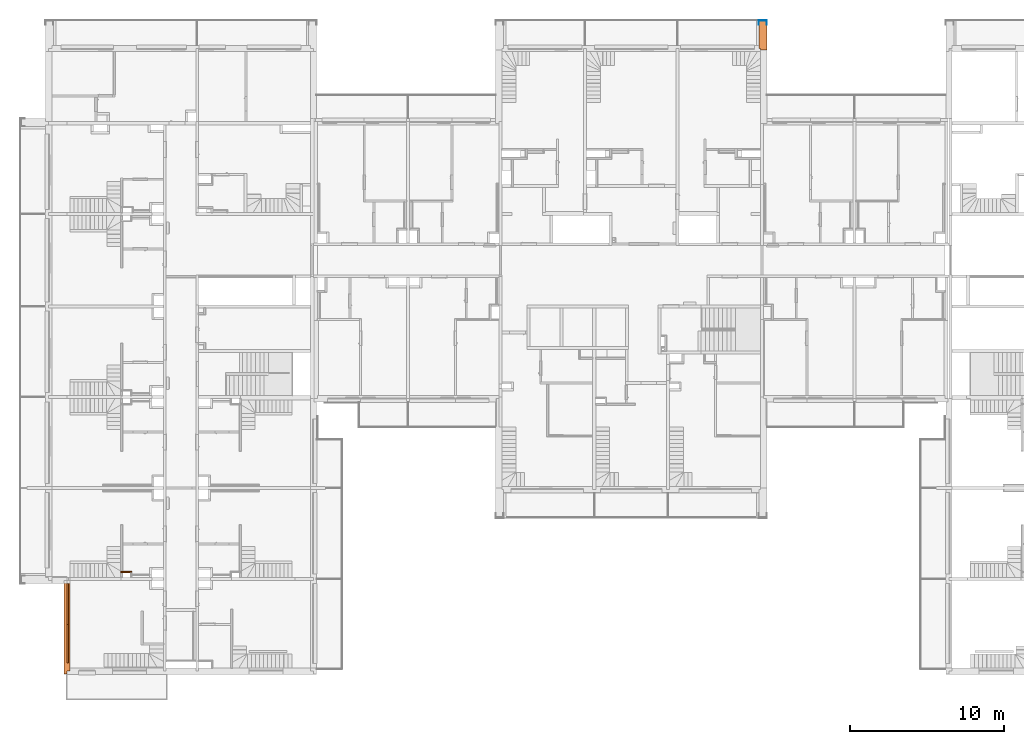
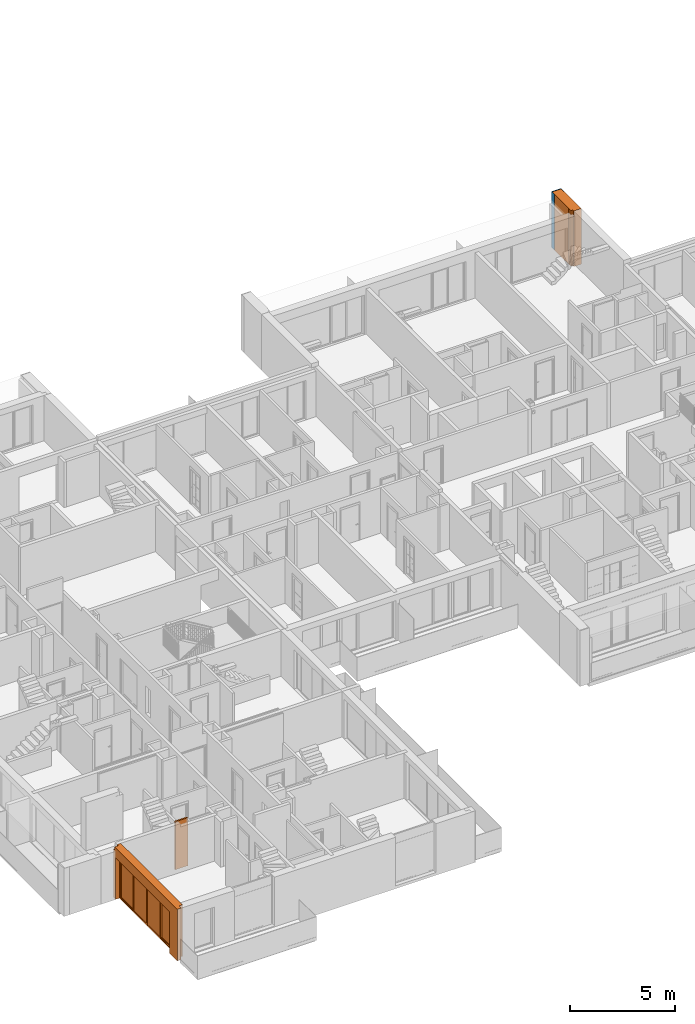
# One storey, part 44 of 61: 5 proxies, 1 wall, 3 openings.
"""IFC2X3 building model written with IfcOpenShell, lengths in millimetres."""

import ifcopenshell
import ifcopenshell.guid

model = None  # the IFC model being written
_history = None  # IfcOwnerHistory: only IFC2X3 demands one
_inside = {}  # id of a spatial element -> (the spatial element, [elements in it])
_under = {}  # id of a project, library or spatial element -> (it, [spatial elements below it])
_declared = {}  # id of a project -> (the project, [libraries it declares])
_typed = {}  # id of a type object -> (the type object, [elements of that type])
_made_of = {}  # id of a material, layer set ... -> (it, [elements and type objects made of it])


def new_model(schema):
    """Start an empty IFC model of exactly this schema.

    Asked for "IFC4X3", IfcOpenShell would pick the latest addendum, in which some entities
    have other attributes; the version numbers below select the first issue.
    IFC2X3 requires an IfcOwnerHistory on every rooted entity: one is made here for all.
    """
    global model, _history
    if schema == "IFC4X3":
        model = ifcopenshell.file(schema_version=(4, 3, 0, 0))
    else:
        model = ifcopenshell.file(schema=schema)
    _inside.clear()
    _under.clear()
    _declared.clear()
    _typed.clear()
    _made_of.clear()
    _history = None
    if model.schema == "IFC2X3":
        org = make("IfcOrganization", Name="unknown")
        user = make(
            "IfcPersonAndOrganization",
            ThePerson=make("IfcPerson", FamilyName="unknown"),
            TheOrganization=org,
        )
        app = make(
            "IfcApplication",
            ApplicationDeveloper=org,
            Version="unknown",
            ApplicationFullName="unknown",
            ApplicationIdentifier="unknown",
        )
        _history = make(
            "IfcOwnerHistory",
            OwningUser=user,
            OwningApplication=app,
            ChangeAction="ADDED",
            CreationDate=0,
        )
    return model


def make(cls, **values):
    """One entity of the class cls with the attributes given. An attribute that is None is left unset."""
    return model.create_entity(
        cls, **{name: value for name, value in values.items() if value is not None}
    )


def entity(cls, *values):
    """Any entity or typed value of the class cls, its attributes in the order of the schema. None: left unset."""
    e = model.create_entity(cls)
    for i, value in enumerate(values):
        if value is not None:
            e[i] = value
    return e


def rooted(cls, **values):
    """An entity with a GlobalId (a new one), such as an element, a storey or a relation."""
    return make(cls, GlobalId=ifcopenshell.guid.new(), OwnerHistory=_history, **values)


def si_unit(unit_type, name, prefix=None):
    """IfcSIUnit, for example si_unit("LENGTHUNIT", "METRE", prefix="MILLI")."""
    return make("IfcSIUnit", UnitType=unit_type, Prefix=prefix, Name=name)


def converted_unit(unit_type, name, factor, base, dimensions=None, offset=None):
    """IfcConversionBasedUnit, such as the inch: factor (a typed value) times the base unit."""
    return make(
        "IfcConversionBasedUnit"
        if offset is None
        else "IfcConversionBasedUnitWithOffset",
        ConversionOffset=offset,
        Dimensions=None
        if dimensions is None
        else entity("IfcDimensionalExponents", *dimensions),
        UnitType=unit_type,
        Name=name,
        ConversionFactor=make(
            "IfcMeasureWithUnit", ValueComponent=factor, UnitComponent=base
        ),
    )


def derived_unit(unit_type, elements):
    """IfcDerivedUnit: a product of units, each with its exponent."""
    return make(
        "IfcDerivedUnit",
        Elements=[
            make("IfcDerivedUnitElement", Unit=unit, Exponent=power)
            for unit, power in elements
        ],
        UnitType=unit_type,
    )


def money_unit(currency):
    """IfcMonetaryUnit."""
    return make("IfcMonetaryUnit", Currency=currency)


def assignment(units):
    """IfcUnitAssignment: the units of a project."""
    return None if units is None else make("IfcUnitAssignment", Units=units)


def point(xyz):
    """IfcCartesianPoint."""
    return None if xyz is None else make("IfcCartesianPoint", Coordinates=xyz)


def direction(xyz):
    """IfcDirection."""
    return None if xyz is None else make("IfcDirection", DirectionRatios=xyz)


def frame(location, z_axis=None, x_axis=None):
    """IfcAxis2Placement3D, a coordinate frame: its origin and axes. An axis left out is left unset."""
    return make(
        "IfcAxis2Placement3D",
        Location=point(location),
        Axis=direction(z_axis),
        RefDirection=direction(x_axis),
    )


def frame_2d(location, x_axis=None):
    """IfcAxis2Placement2D, a coordinate frame in the plane: its origin and x axis."""
    return make(
        "IfcAxis2Placement2D", Location=point(location), RefDirection=direction(x_axis)
    )


def origin_with_axes():
    """The frame at (0, 0, 0) with the z axis (0, 0, 1) and the x axis (1, 0, 0) written out."""
    return frame((0.0, 0.0, 0.0), z_axis=(0.0, 0.0, 1.0), x_axis=(1.0, 0.0, 0.0))


def origin_2d_with_axis():
    """The frame at (0, 0) in the plane with the x axis (1, 0) written out."""
    return frame_2d((0.0, 0.0), x_axis=(1.0, 0.0))


def place(relative_to, where):
    """IfcLocalPlacement: puts the frame where relative to a parent placement (None: the world)."""
    return make(
        "IfcLocalPlacement", PlacementRelTo=relative_to, RelativePlacement=where
    )


def context(
    kind, dimensions, precision=None, world=None, true_north=None, identifier=None
):
    """IfcGeometricRepresentationContext, for example the 3D "Model" context."""
    return make(
        "IfcGeometricRepresentationContext",
        ContextIdentifier=identifier,
        ContextType=kind,
        CoordinateSpaceDimension=dimensions,
        Precision=precision,
        WorldCoordinateSystem=world,
        TrueNorth=true_north,
    )


def subcontext(parent, identifier, kind, view, scale=None):
    """IfcGeometricRepresentationSubContext, for example "Body" below "Model"."""
    return make(
        "IfcGeometricRepresentationSubContext",
        ContextIdentifier=identifier,
        ContextType=kind,
        ParentContext=parent,
        TargetScale=scale,
        TargetView=view,
    )


def project(units=None, contexts=None):
    """IfcProject with its units and contexts."""
    return rooted(
        "IfcProject",
        Name="project",
        RepresentationContexts=contexts,
        UnitsInContext=assignment(units),
    )


def spatial(cls, under=None, at=None, **own):
    """A site, building, storey or space (cls), placed at a placement, below another one or the project."""
    s = rooted(cls, ObjectPlacement=at, **own)
    if under is not None:
        _under.setdefault(under.id(), (under, []))[1].append(s)
    return s


def profile(cls, at=None, kind="AREA", **sizes):
    """A parametric profile (cls). Its sizes go by their IFC names, for example OverallWidth=200.0."""
    return make(cls, ProfileType=kind, Position=at, **sizes)


def rectangle(**sizes):
    """IfcRectangleProfileDef."""
    return profile("IfcRectangleProfileDef", **sizes)


def extrude(swept, where, along, depth):
    """IfcExtrudedAreaSolid: the profile swept, set in the frame where, extruded along a direction by depth."""
    return make(
        "IfcExtrudedAreaSolid",
        SweptArea=swept,
        Position=where,
        ExtrudedDirection=direction(along),
        Depth=depth,
    )


def faces_of(points, faces, orient=None, outer=None):
    """IfcFace entities. A face is a list of loops; a loop is a list of indices into points, from 0.

    orient and outer hold one flag for each loop. By default every Orientation is true, the
    first loop of a face is its IfcFaceOuterBound and the others are IfcFaceBound.
    """
    made = []
    for i, loops in enumerate(faces):
        bounds = []
        for j, loop in enumerate(loops):
            is_outer = j == 0 if outer is None else outer[i][j]
            bounds.append(
                make(
                    "IfcFaceOuterBound" if is_outer else "IfcFaceBound",
                    Bound=make("IfcPolyLoop", Polygon=[points[k] for k in loop]),
                    Orientation=True if orient is None else orient[i][j],
                )
            )
        made.append(make("IfcFace", Bounds=bounds))
    return made


def open_shell(faces, orient=None, outer=None):
    """The faces of one IfcOpenShell. surface_model builds it on its shared points."""
    return ("IfcOpenShell", faces, orient, outer)


def faceted_brep(points, faces, orient=None, outer=None, voids=None):
    """IfcFacetedBrep: a solid bounded by flat faces; with voids (closed shells), ...WithVoids."""
    shared = [point(p) for p in points]
    hull = make("IfcClosedShell", CfsFaces=faces_of(shared, faces, orient, outer))
    if voids is None:
        return make("IfcFacetedBrep", Outer=hull)
    return make(
        "IfcFacetedBrepWithVoids",
        Outer=hull,
        Voids=[
            make(cls, CfsFaces=faces_of(shared, fs, o, b)) for cls, fs, o, b in voids
        ],
    )


def surface_model(cls, points, shells):
    """IfcFaceBasedSurfaceModel or IfcShellBasedSurfaceModel (cls): surfaces that need not close."""
    shared = [point(p) for p in points]
    made = [make(c, CfsFaces=faces_of(shared, fs, o, b)) for c, fs, o, b in shells]
    if cls == "IfcFaceBasedSurfaceModel":
        return make(cls, FbsmFaces=made)
    return make(cls, SbsmBoundary=made)


def shape(context_of_items, identifier, shape_type, items):
    """IfcShapeRepresentation: the items that make up one representation, for example the "Body"."""
    return make(
        "IfcShapeRepresentation",
        ContextOfItems=context_of_items,
        RepresentationIdentifier=identifier,
        RepresentationType=shape_type,
        Items=items,
    )


def source(mapping_origin, context_of_items, identifier, shape_type, items):
    """IfcRepresentationMap: a shape defined once, which mapped items show again and again."""
    return make(
        "IfcRepresentationMap",
        MappingOrigin=mapping_origin,
        MappedRepresentation=shape(context_of_items, identifier, shape_type, items),
    )


def transform(
    local_origin,
    x_axis=None,
    y_axis=None,
    z_axis=None,
    scale=None,
    scale2=None,
    scale3=None,
    uniform=True,
):
    """IfcCartesianTransformationOperator3D, or its non-uniform kind. x_axis, y_axis, z_axis: its Axis1, 2, 3."""
    if uniform:
        return make(
            "IfcCartesianTransformationOperator3D",
            Axis1=direction(x_axis),
            Axis2=direction(y_axis),
            LocalOrigin=point(local_origin),
            Scale=scale,
            Axis3=direction(z_axis),
        )
    return make(
        "IfcCartesianTransformationOperator3DnonUniform",
        Axis1=direction(x_axis),
        Axis2=direction(y_axis),
        LocalOrigin=point(local_origin),
        Scale=scale,
        Axis3=direction(z_axis),
        Scale2=scale2,
        Scale3=scale3,
    )


def mapped(mapping_source, mapping_target):
    """IfcMappedItem: shows the shape of a source again, moved by a transform."""
    return make(
        "IfcMappedItem", MappingSource=mapping_source, MappingTarget=mapping_target
    )


def material(Name=None, Category=None):
    """IfcMaterial."""
    return make("IfcMaterial", Name=Name, Category=Category)


def material_list(materials):
    """IfcMaterialList."""
    return make("IfcMaterialList", Materials=materials)


def made_of(thing, what):
    """Note that an element or type object is made of a material, layer set ...; save() writes the relation."""
    if what is not None:
        _made_of.setdefault(what.id(), (what, []))[1].append(thing)
    return thing


def type_object(cls, material=None, **own):
    """A type object (cls), such as IfcWallType, which elements share."""
    return made_of(rooted(cls, **own), material)


def element(
    cls,
    number,
    at=None,
    inside=None,
    cuts=None,
    type_object=None,
    material=None,
    context=None,
    identifier="Body",
    shape_type=None,
    held_by="IfcProductDefinitionShape",
    body=None,
    shapes=None,
    **own,
):
    """One element of the class cls, such as IfcWall. Its Tag is "e" and its number.

    at: its placement. inside: the storey or other place that contains it. cuts: it is an
    opening in that element (IfcRelVoidsElement). A single representation is given by context,
    identifier, shape_type and body (its items); several are given by shapes. held_by: the class
    of the entity that holds the representations. save() writes the other relations.
    """
    e = rooted(cls, Tag="e%d" % number, ObjectPlacement=at, **own)
    if body is not None:
        shapes = [shape(context, identifier, shape_type, body)]
    if shapes is not None:
        e.Representation = make(held_by, Representations=shapes)
    if inside is not None:
        _inside.setdefault(inside.id(), (inside, []))[1].append(e)
    if cuts is not None:
        rooted(
            "IfcRelVoidsElement", RelatingBuildingElement=cuts, RelatedOpeningElement=e
        )
    if type_object is not None:
        _typed.setdefault(type_object.id(), (type_object, []))[1].append(e)
    return made_of(e, material)


def fill(opening, filler):
    """IfcRelFillsElement: the door or window that sits in an opening."""
    return rooted(
        "IfcRelFillsElement",
        RelatingOpeningElement=opening,
        RelatedBuildingElement=filler,
    )


def aggregate(whole, parts):
    """IfcRelAggregates: a whole, such as a stair, and the parts it consists of."""
    return rooted("IfcRelAggregates", RelatingObject=whole, RelatedObjects=parts)


def save(model, path):
    """Write the relations noted so far, then the file.

    IfcRelAggregates (storeys below a building ...), IfcRelContainedInSpatialStructure (elements
    in a storey), IfcRelDefinesByType, IfcRelAssociatesMaterial and IfcRelDeclares: one each for
    every whole, place, type object, material and project.
    """
    for whole, parts in _under.values():
        aggregate(whole, parts)
    for where, things in _inside.values():
        rooted(
            "IfcRelContainedInSpatialStructure",
            RelatedElements=things,
            RelatingStructure=where,
        )
    for kind, things in _typed.values():
        rooted("IfcRelDefinesByType", RelatedObjects=things, RelatingType=kind)
    for what, things in _made_of.values():
        rooted("IfcRelAssociatesMaterial", RelatedObjects=things, RelatingMaterial=what)
    for by, libraries in _declared.values():
        rooted("IfcRelDeclares", RelatingContext=by, RelatedDefinitions=libraries)
    model.write(path)


model = new_model("IFC2X3")

# Units and contexts
model_context = context("Model", 3, precision=0.01, world=origin_with_axes(), true_north=direction((0.34421633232, 0.938890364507)))
body_context = subcontext(model_context, "Body", "Model", "MODEL_VIEW")
ifc_project = project(units=[si_unit("LENGTHUNIT", "METRE", prefix="MILLI"), si_unit("AREAUNIT", "SQUARE_METRE"), si_unit("VOLUMEUNIT", "CUBIC_METRE"), converted_unit("PLANEANGLEUNIT", "DEGREE", entity("IfcPlaneAngleMeasure", 0.0174532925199), si_unit("PLANEANGLEUNIT", "RADIAN"), dimensions=[0, 0, 0, 0, 0, 0, 0]), si_unit("SOLIDANGLEUNIT", "STERADIAN"), money_unit("USD"), converted_unit("TIMEUNIT", "Year", entity("IfcTimeMeasure", 31556926.0), si_unit("TIMEUNIT", "SECOND"), dimensions=[0, 0, 1, 0, 0, 0, 0]), si_unit("MASSUNIT", "GRAM", prefix="KILO"), si_unit("THERMODYNAMICTEMPERATUREUNIT", "DEGREE_CELSIUS"), si_unit("LUMINOUSINTENSITYUNIT", "LUMEN"), si_unit("ENERGYUNIT", "JOULE", prefix="MEGA"), derived_unit("THERMALCONDUCTANCEUNIT", [(si_unit("POWERUNIT", "WATT"), 1), (si_unit("LENGTHUNIT", "METRE"), -1), (si_unit("THERMODYNAMICTEMPERATUREUNIT", "KELVIN"), -1)]), derived_unit("SPECIFICHEATCAPACITYUNIT", [(si_unit("ENERGYUNIT", "JOULE"), 1), (si_unit("MASSUNIT", "GRAM", prefix="KILO"), -1), (si_unit("THERMODYNAMICTEMPERATUREUNIT", "KELVIN"), -1)]), derived_unit("MASSDENSITYUNIT", [(si_unit("MASSUNIT", "GRAM", prefix="KILO"), 1), (si_unit("VOLUMEUNIT", "CUBIC_METRE"), -1)])], contexts=[model_context])

# Site, building, storey
site_placement = place(None, origin_with_axes())
site = spatial("IfcSite", under=ifc_project, at=site_placement, Name="USTRONIE MORSKIE", CompositionType="ELEMENT")
building_placement = place(site_placement, origin_with_axes())
building = spatial("IfcBuilding", under=site, at=building_placement, Name="Budynek", CompositionType="ELEMENT")
storey_placement = place(building_placement, frame((0.0, 0.0, 13000.0), z_axis=(0.0, 0.0, 1.0), x_axis=(1.0, 0.0, 0.0)))
storey = spatial("IfcBuildingStorey", under=building, at=storey_placement, Name="PIĘTRO 4", CompositionType="ELEMENT", Elevation=13000.0)

# Proxies, openings
ifc_material_1 = material(Name="Beton konstrukcyjny B25")
ifc_material_2 = material(Name="Wełna ELEW")
ifc_material_3 = material(Name="Tynk zewnętrzny")
ifc_material_list_1 = material_list([ifc_material_1, ifc_material_2, ifc_material_3])
building_element_proxy_type_1 = type_object("IfcBuildingElementProxyType", Name="20+20 410", PredefinedType="NOTDEFINED")
proxy_1_placement = place(storey_placement, frame((351267.920919, 715101.199036, -160.0), z_axis=(0.0, 0.0, 1.0), x_axis=(0.0, -1.0, 0.0)))
proxy_1 = element("IfcBuildingElementProxy", 1, at=proxy_1_placement, inside=storey, type_object=building_element_proxy_type_1, material=ifc_material_list_1, Name="SZ-01", context=body_context, shape_type="Brep", body=[
    faceted_brep([(100.0, 100.0, 2799.99999799), (100.0, 100.0, 2999.99999811), (6000.0, 100.0, 3000.0), (6000.0, 100.0, 0.0), (100.0, 100.0, 0.0), (100.0, -100.0, 2999.99999805), (100.0, -100.0, 2799.99999799), (6000.0, -100.0, 3000.0), (6000.0, -100.0, 0.0), (100.0, -100.0, 0.0)], [[[0, 1, 2, 3, 4]], [[5, 1, 0, 6]], [[1, 5, 7, 2]], [[3, 2, 7, 8]], [[9, 4, 3, 8]], [[6, 0, 4, 9]], [[5, 6, 9, 8, 7]]]),
    faceted_brep([(100.0, -300.0, 0.0), (100.0, -300.0, 2799.99999799), (100.0, -100.0, 2799.99999799), (100.0, -100.0, 0.0), (200.0, -300.0, 2999.99999799), (200.0, -300.0, 2799.99999799), (6200.0, -300.0, 0.0), (6200.0, -300.0, 3000.0), (200.0, -100.0, 2799.99999799), (200.0, -100.0, 2999.99999799), (6200.0, -100.0, 3000.0), (6200.0, -100.0, 0.0)], [[[0, 1, 2, 3]], [[4, 5, 1, 0, 6, 7]], [[5, 8, 2, 1]], [[2, 8, 9, 10, 11, 3]], [[6, 0, 3, 11]], [[5, 4, 9, 8]], [[6, 11, 10, 7]], [[10, 9, 4, 7]]]),
    faceted_brep([(200.0, -300.0, 2799.99999799), (200.0, -300.0, 2999.99999799), (6210.0, -300.0, 3000.0), (6210.0, -300.0, 0.0), (300.0, -300.0, 0.0), (300.0, -300.0, 2799.99999799), (200.0, -310.0, 2999.99999799), (200.0, -310.0, 2799.99999799), (6210.0, -310.0, 3000.0), (6210.0, -310.0, 0.0), (300.0, -310.0, 0.0), (300.0, -310.0, 2799.99999799)], [[[0, 1, 2, 3, 4, 5]], [[6, 1, 0, 7]], [[1, 6, 8, 2]], [[3, 2, 8, 9]], [[10, 4, 3, 9]], [[5, 4, 10, 11]], [[7, 0, 5, 11]], [[6, 7, 11, 10, 9, 8]]]),
])
opening_1_placement = place(proxy_1_placement, frame((1640.0, 0.0, 0.0), z_axis=(0.0, 0.0, 1.0), x_axis=(1.0, 0.0, 0.0)))
opening_1 = element("IfcOpeningElement", 2, at=opening_1_placement, cuts=proxy_1, Name="Wz.04", context=body_context, shape_type="SweptSolid", body=[
    extrude(rectangle(XDim=2680.0, YDim=2420.0, at=origin_2d_with_axis()), frame((0.0, 0.0, 1210.0), z_axis=(0.0, -1.0, 0.0), x_axis=(-1.0, 0.0, 0.0)), (0.0, 0.0, 1.0), 720.0),
    extrude(rectangle(XDim=2680.0, YDim=2420.0, at=origin_2d_with_axis()), frame((0.0, 0.0, 1210.0), z_axis=(0.0, 1.0, 0.0), x_axis=(-1.0, 0.0, 0.0)), (0.0, 0.0, 1.0), 510.0),
])
opening_2_placement = place(proxy_1_placement, frame((4225.0, 0.0, 0.0), z_axis=(0.0, 0.0, 1.0), x_axis=(1.0, 0.0, 0.0)))
opening_2 = element("IfcOpeningElement", 3, at=opening_2_placement, cuts=proxy_1, Name="Wz.04", context=body_context, shape_type="SweptSolid", body=[
    extrude(rectangle(XDim=2490.0, YDim=2420.0, at=origin_2d_with_axis()), frame((0.0, 0.0, 1210.0), z_axis=(0.0, 1.0, 0.0), x_axis=(1.0, 0.0, 0.0)), (0.0, 0.0, -1.0), 720.0),
    extrude(rectangle(XDim=2490.0, YDim=2420.0, at=origin_2d_with_axis()), frame((0.0, 0.0, 1210.0), z_axis=(0.0, -1.0, 0.0), x_axis=(1.0, 0.0, 0.0)), (0.0, 0.0, -1.0), 510.0),
])
building_element_proxy_type_2 = type_object("IfcBuildingElementProxyType", Name="Okno przesuwne, 2-skrzydłowe 23", PredefinedType="NOTDEFINED")
proxy_2_placement = place(opening_1_placement, frame((-1340.0, 0.0, 0.0), z_axis=(0.0, 0.0, 1.0), x_axis=(1.0, 0.0, 0.0)))
proxy_2 = element("IfcBuildingElementProxy", 4, at=proxy_2_placement, inside=storey, type_object=building_element_proxy_type_2, Name="Wz.04", context=body_context, shape_type="SurfaceModel", body=[
    faceted_brep([(2630.0, -100.0, 50.0), (2630.0, -100.0, 2370.0), (2630.0, 0.0, 2370.0), (2630.0, 0.0, 50.0), (2680.0, -100.0, 50.0), (2680.0, -100.0, 2370.0), (2680.0, 0.0, 2370.0), (2680.0, 0.0, 50.0)], [[[0, 1, 2, 3]], [[0, 4, 5, 1]], [[1, 5, 6, 2]], [[3, 2, 6, 7]], [[4, 0, 3, 7]], [[5, 4, 7, 6]]]),
    faceted_brep([(0.0, -100.0, 50.0), (0.0, -100.0, 2370.0), (0.0, 0.0, 2370.0), (0.0, 0.0, 50.0), (50.0, -100.0, 50.0), (50.0, -100.0, 2370.0), (50.0, 0.0, 2370.0), (50.0, 0.0, 50.0)], [[[0, 1, 2, 3]], [[0, 4, 5, 1]], [[1, 5, 6, 2]], [[3, 2, 6, 7]], [[4, 0, 3, 7]], [[5, 4, 7, 6]]]),
    faceted_brep([(0.0, -100.0, 50.0), (50.0, -100.0, 50.0), (50.0, 0.0, 50.0), (0.0, 0.0, 50.0), (0.0, -100.0, 0.0), (2680.0, -100.0, 0.0), (2680.0, -100.0, 50.0), (2630.0, -100.0, 50.0), (2630.0, 0.0, 50.0), (2680.0, 0.0, 50.0), (2680.0, 0.0, 0.0), (0.0, 0.0, 0.0)], [[[0, 1, 2, 3]], [[0, 4, 5, 6, 7, 1]], [[1, 7, 8, 2]], [[3, 2, 8, 9, 10, 11]], [[4, 0, 3, 11]], [[5, 4, 11, 10]], [[6, 5, 10, 9]], [[7, 6, 9, 8]]]),
    faceted_brep([(0.0, -100.0, 2420.0), (2680.0, -100.0, 2420.0), (2680.0, 0.0, 2420.0), (0.0, 0.0, 2420.0), (0.0, -100.0, 2370.0), (50.0, -100.0, 2370.0), (2630.0, -100.0, 2370.0), (2680.0, -100.0, 2370.0), (2680.0, 0.0, 2370.0), (2630.0, 0.0, 2370.0), (50.0, 0.0, 2370.0), (0.0, 0.0, 2370.0)], [[[0, 1, 2, 3]], [[0, 4, 5, 6, 7, 1]], [[1, 7, 8, 2]], [[3, 2, 8, 9, 10, 11]], [[4, 0, 3, 11]], [[5, 4, 11, 10]], [[6, 5, 10, 9]], [[7, 6, 9, 8]]]),
    faceted_brep([(2580.0, -100.0, 2320.0), (2630.0, -100.0, 2320.0), (2630.0, -50.0, 2320.0), (2580.0, -50.0, 2320.0), (2580.0, -100.0, 100.0), (2630.0, -100.0, 100.0), (2630.0, -50.0, 100.0), (2580.0, -50.0, 100.0)], [[[0, 1, 2, 3]], [[0, 4, 5, 1]], [[1, 5, 6, 2]], [[3, 2, 6, 7]], [[4, 0, 3, 7]], [[5, 4, 7, 6]]]),
    faceted_brep([(1365.0, -100.0, 100.0), (1315.0, -100.0, 100.0), (1315.0, -50.0, 100.0), (1365.0, -50.0, 100.0), (1365.0, -100.0, 2320.0), (1315.0, -100.0, 2320.0), (1315.0, -50.0, 2320.0), (1365.0, -50.0, 2320.0)], [[[0, 1, 2, 3]], [[0, 4, 5, 1]], [[1, 5, 6, 2]], [[3, 2, 6, 7]], [[4, 0, 3, 7]], [[5, 4, 7, 6]]]),
    faceted_brep([(1315.0, -100.0, 50.0), (1315.0, -100.0, 100.0), (1315.0, -50.0, 100.0), (1315.0, -50.0, 50.0), (2630.0, -100.0, 50.0), (2630.0, -100.0, 100.0), (2580.0, -100.0, 100.0), (1365.0, -100.0, 100.0), (1365.0, -50.0, 100.0), (2580.0, -50.0, 100.0), (2630.0, -50.0, 100.0), (2630.0, -50.0, 50.0)], [[[0, 1, 2, 3]], [[0, 4, 5, 6, 7, 1]], [[1, 7, 8, 2]], [[3, 2, 8, 9, 10, 11]], [[4, 0, 3, 11]], [[5, 4, 11, 10]], [[6, 5, 10, 9]], [[7, 6, 9, 8]]]),
    faceted_brep([(2630.0, -100.0, 2370.0), (2630.0, -100.0, 2320.0), (2630.0, -50.0, 2320.0), (2630.0, -50.0, 2370.0), (1315.0, -100.0, 2370.0), (1315.0, -100.0, 2320.0), (1365.0, -100.0, 2320.0), (2580.0, -100.0, 2320.0), (2580.0, -50.0, 2320.0), (1365.0, -50.0, 2320.0), (1315.0, -50.0, 2320.0), (1315.0, -50.0, 2370.0)], [[[0, 1, 2, 3]], [[0, 4, 5, 6, 7, 1]], [[1, 7, 8, 2]], [[3, 2, 8, 9, 10, 11]], [[4, 0, 3, 11]], [[5, 4, 11, 10]], [[6, 5, 10, 9]], [[7, 6, 9, 8]]]),
    surface_model("IfcShellBasedSurfaceModel", [(2580.0, -85.0, 100.0), (2580.0, -85.0, 2320.0), (1365.0, -85.0, 2320.0), (1365.0, -85.0, 100.0)], [open_shell([[[0, 1, 2, 3]]])]),
    surface_model("IfcShellBasedSurfaceModel", [(2580.0, -65.0, 100.0), (1365.0, -65.0, 100.0), (1365.0, -65.0, 2320.0), (2580.0, -65.0, 2320.0)], [open_shell([[[0, 1, 2, 3]]])]),
    faceted_brep([(1315.0, -50.0, 2320.0), (1365.0, -50.0, 2320.0), (1365.0, 0.0, 2320.0), (1315.0, 0.0, 2320.0), (1315.0, -50.0, 100.0), (1365.0, -50.0, 100.0), (1365.0, 0.0, 100.0), (1315.0, 0.0, 100.0)], [[[0, 1, 2, 3]], [[0, 4, 5, 1]], [[1, 5, 6, 2]], [[3, 2, 6, 7]], [[4, 0, 3, 7]], [[5, 4, 7, 6]]]),
    faceted_brep([(100.0, -50.0, 100.0), (50.0, -50.0, 100.0), (50.0, 0.0, 100.0), (100.0, 0.0, 100.0), (100.0, -50.0, 2320.0), (50.0, -50.0, 2320.0), (50.0, 0.0, 2320.0), (100.0, 0.0, 2320.0)], [[[0, 1, 2, 3]], [[0, 4, 5, 1]], [[1, 5, 6, 2]], [[3, 2, 6, 7]], [[4, 0, 3, 7]], [[5, 4, 7, 6]]]),
    faceted_brep([(50.0, -50.0, 50.0), (50.0, -50.0, 100.0), (50.0, 0.0, 100.0), (50.0, 0.0, 50.0), (1365.0, -50.0, 50.0), (1365.0, -50.0, 100.0), (1315.0, -50.0, 100.0), (100.0, -50.0, 100.0), (100.0, 0.0, 100.0), (1315.0, 0.0, 100.0), (1365.0, 0.0, 100.0), (1365.0, 0.0, 50.0)], [[[0, 1, 2, 3]], [[0, 4, 5, 6, 7, 1]], [[1, 7, 8, 2]], [[3, 2, 8, 9, 10, 11]], [[4, 0, 3, 11]], [[5, 4, 11, 10]], [[6, 5, 10, 9]], [[7, 6, 9, 8]]]),
    faceted_brep([(1365.0, -50.0, 2370.0), (1365.0, -50.0, 2320.0), (1365.0, 0.0, 2320.0), (1365.0, 0.0, 2370.0), (50.0, -50.0, 2370.0), (50.0, -50.0, 2320.0), (100.0, -50.0, 2320.0), (1315.0, -50.0, 2320.0), (1315.0, 0.0, 2320.0), (100.0, 0.0, 2320.0), (50.0, 0.0, 2320.0), (50.0, 0.0, 2370.0)], [[[0, 1, 2, 3]], [[0, 4, 5, 6, 7, 1]], [[1, 7, 8, 2]], [[3, 2, 8, 9, 10, 11]], [[4, 0, 3, 11]], [[5, 4, 11, 10]], [[6, 5, 10, 9]], [[7, 6, 9, 8]]]),
    surface_model("IfcShellBasedSurfaceModel", [(1315.0, -35.0, 100.0), (1315.0, -35.0, 2320.0), (100.0, -35.0, 2320.0), (100.0, -35.0, 100.0)], [open_shell([[[0, 1, 2, 3]]])]),
    surface_model("IfcShellBasedSurfaceModel", [(1315.0, -15.0, 100.0), (100.0, -15.0, 100.0), (100.0, -15.0, 2320.0), (1315.0, -15.0, 2320.0)], [open_shell([[[0, 1, 2, 3]]])]),
])
fill(opening_1, proxy_2)
proxy_3_placement = place(opening_2_placement, frame((-1245.0, 0.0, 0.0), z_axis=(0.0, 0.0, 1.0), x_axis=(1.0, 0.0, 0.0)))
proxy_3 = element("IfcBuildingElementProxy", 5, at=proxy_3_placement, inside=storey, type_object=building_element_proxy_type_2, Name="Wz.04", context=body_context, shape_type="SurfaceModel", body=[
    faceted_brep([(50.0000000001, -100.0, 50.0), (50.0000000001, 0.0, 50.0), (50.0000000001, 0.0, 2370.0), (50.0000000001, -100.0, 2370.0), (0.0, -100.0, 50.0), (0.0, 0.0, 50.0), (0.0, 0.0, 2370.0), (0.0, -100.0, 2370.0)], [[[0, 1, 2, 3]], [[4, 5, 1, 0]], [[1, 5, 6, 2]], [[3, 2, 6, 7]], [[0, 3, 7, 4]], [[7, 6, 5, 4]]]),
    faceted_brep([(2490.0, -100.0, 50.0), (2490.0, 0.0, 50.0), (2490.0, 0.0, 2370.0), (2490.0, -100.0, 2370.0), (2440.0, -100.0, 50.0), (2440.0, 0.0, 50.0), (2440.0, 0.0, 2370.0), (2440.0, -100.0, 2370.0)], [[[0, 1, 2, 3]], [[4, 5, 1, 0]], [[1, 5, 6, 2]], [[3, 2, 6, 7]], [[0, 3, 7, 4]], [[7, 6, 5, 4]]]),
    faceted_brep([(2490.0, -100.0, 50.0), (2490.0, 0.0, 50.0), (2440.0, 0.0, 50.0), (2440.0, -100.0, 50.0), (2490.0, -100.0, 0.0), (2490.0, 0.0, 0.0), (0.0, 0.0, 0.0), (0.0, 0.0, 50.0), (50.0000000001, 0.0, 50.0), (50.0000000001, -100.0, 50.0), (0.0, -100.0, 50.0), (0.0, -100.0, 0.0)], [[[0, 1, 2, 3]], [[4, 5, 1, 0]], [[1, 5, 6, 7, 8, 2]], [[3, 2, 8, 9]], [[0, 3, 9, 10, 11, 4]], [[11, 6, 5, 4]], [[10, 7, 6, 11]], [[9, 8, 7, 10]]]),
    faceted_brep([(2490.0, -100.0, 2420.0), (2490.0, 0.0, 2420.0), (0.0, 0.0, 2420.0), (0.0, -100.0, 2420.0), (2490.0, -100.0, 2370.0), (2490.0, 0.0, 2370.0), (2440.0, 0.0, 2370.0), (50.0000000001, 0.0, 2370.0), (0.0, 0.0, 2370.0), (0.0, -100.0, 2370.0), (50.0000000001, -100.0, 2370.0), (2440.0, -100.0, 2370.0)], [[[0, 1, 2, 3]], [[4, 5, 1, 0]], [[1, 5, 6, 7, 8, 2]], [[3, 2, 8, 9]], [[0, 3, 9, 10, 11, 4]], [[11, 6, 5, 4]], [[10, 7, 6, 11]], [[9, 8, 7, 10]]]),
    faceted_brep([(100.0, -100.0, 2320.0), (100.0, -50.0, 2320.0), (50.0000000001, -50.0, 2320.0), (50.0000000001, -100.0, 2320.0), (100.0, -100.0, 100.0), (100.0, -50.0, 100.0), (50.0000000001, -50.0, 100.0), (50.0000000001, -100.0, 100.0)], [[[0, 1, 2, 3]], [[4, 5, 1, 0]], [[1, 5, 6, 2]], [[3, 2, 6, 7]], [[0, 3, 7, 4]], [[7, 6, 5, 4]]]),
    faceted_brep([(1220.0, -100.0, 100.0), (1220.0, -50.0, 100.0), (1270.0, -50.0, 100.0), (1270.0, -100.0, 100.0), (1220.0, -100.0, 2320.0), (1220.0, -50.0, 2320.0), (1270.0, -50.0, 2320.0), (1270.0, -100.0, 2320.0)], [[[0, 1, 2, 3]], [[4, 5, 1, 0]], [[1, 5, 6, 2]], [[3, 2, 6, 7]], [[0, 3, 7, 4]], [[7, 6, 5, 4]]]),
    faceted_brep([(1270.0, -100.0, 50.0), (1270.0, -50.0, 50.0), (1270.0, -50.0, 100.0), (1270.0, -100.0, 100.0), (50.0000000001, -100.0, 50.0), (50.0000000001, -50.0, 50.0), (50.0000000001, -50.0, 100.0), (100.0, -50.0, 100.0), (1220.0, -50.0, 100.0), (1220.0, -100.0, 100.0), (100.0, -100.0, 100.0), (50.0000000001, -100.0, 100.0)], [[[0, 1, 2, 3]], [[4, 5, 1, 0]], [[1, 5, 6, 7, 8, 2]], [[3, 2, 8, 9]], [[0, 3, 9, 10, 11, 4]], [[11, 6, 5, 4]], [[10, 7, 6, 11]], [[9, 8, 7, 10]]]),
    faceted_brep([(50.0000000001, -100.0, 2370.0), (50.0000000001, -50.0, 2370.0), (50.0000000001, -50.0, 2320.0), (50.0000000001, -100.0, 2320.0), (1270.0, -100.0, 2370.0), (1270.0, -50.0, 2370.0), (1270.0, -50.0, 2320.0), (1220.0, -50.0, 2320.0), (100.0, -50.0, 2320.0), (100.0, -100.0, 2320.0), (1220.0, -100.0, 2320.0), (1270.0, -100.0, 2320.0)], [[[0, 1, 2, 3]], [[4, 5, 1, 0]], [[1, 5, 6, 7, 8, 2]], [[3, 2, 8, 9]], [[0, 3, 9, 10, 11, 4]], [[11, 6, 5, 4]], [[10, 7, 6, 11]], [[9, 8, 7, 10]]]),
    surface_model("IfcShellBasedSurfaceModel", [(100.0, -85.0, 100.0), (1220.0, -85.0, 100.0), (1220.0, -85.0, 2320.0), (100.0, -85.0, 2320.0)], [open_shell([[[0, 1, 2, 3]]])]),
    surface_model("IfcShellBasedSurfaceModel", [(100.0, -65.0, 100.0), (100.0, -65.0, 2320.0), (1220.0, -65.0, 2320.0), (1220.0, -65.0, 100.0)], [open_shell([[[0, 1, 2, 3]]])]),
    faceted_brep([(1270.0, -50.0, 2320.0), (1270.0, 0.0, 2320.0), (1220.0, 0.0, 2320.0), (1220.0, -50.0, 2320.0), (1270.0, -50.0, 100.0), (1270.0, 0.0, 100.0), (1220.0, 0.0, 100.0), (1220.0, -50.0, 100.0)], [[[0, 1, 2, 3]], [[4, 5, 1, 0]], [[1, 5, 6, 2]], [[3, 2, 6, 7]], [[0, 3, 7, 4]], [[7, 6, 5, 4]]]),
    faceted_brep([(2390.0, -50.0, 100.0), (2390.0, 0.0, 100.0), (2440.0, 0.0, 100.0), (2440.0, -50.0, 100.0), (2390.0, -50.0, 2320.0), (2390.0, 0.0, 2320.0), (2440.0, 0.0, 2320.0), (2440.0, -50.0, 2320.0)], [[[0, 1, 2, 3]], [[4, 5, 1, 0]], [[1, 5, 6, 2]], [[3, 2, 6, 7]], [[0, 3, 7, 4]], [[7, 6, 5, 4]]]),
    faceted_brep([(2440.0, -50.0, 50.0), (2440.0, 0.0, 50.0), (2440.0, 0.0, 100.0), (2440.0, -50.0, 100.0), (1220.0, -50.0, 50.0), (1220.0, 0.0, 50.0), (1220.0, 0.0, 100.0), (1270.0, 0.0, 100.0), (2390.0, 0.0, 100.0), (2390.0, -50.0, 100.0), (1270.0, -50.0, 100.0), (1220.0, -50.0, 100.0)], [[[0, 1, 2, 3]], [[4, 5, 1, 0]], [[1, 5, 6, 7, 8, 2]], [[3, 2, 8, 9]], [[0, 3, 9, 10, 11, 4]], [[11, 6, 5, 4]], [[10, 7, 6, 11]], [[9, 8, 7, 10]]]),
    faceted_brep([(1220.0, -50.0, 2370.0), (1220.0, 0.0, 2370.0), (1220.0, 0.0, 2320.0), (1220.0, -50.0, 2320.0), (2440.0, -50.0, 2370.0), (2440.0, 0.0, 2370.0), (2440.0, 0.0, 2320.0), (2390.0, 0.0, 2320.0), (1270.0, 0.0, 2320.0), (1270.0, -50.0, 2320.0), (2390.0, -50.0, 2320.0), (2440.0, -50.0, 2320.0)], [[[0, 1, 2, 3]], [[4, 5, 1, 0]], [[1, 5, 6, 7, 8, 2]], [[3, 2, 8, 9]], [[0, 3, 9, 10, 11, 4]], [[11, 6, 5, 4]], [[10, 7, 6, 11]], [[9, 8, 7, 10]]]),
    surface_model("IfcShellBasedSurfaceModel", [(1270.0, -35.0, 100.0), (2390.0, -35.0, 100.0), (2390.0, -35.0, 2320.0), (1270.0, -35.0, 2320.0)], [open_shell([[[0, 1, 2, 3]]])]),
    surface_model("IfcShellBasedSurfaceModel", [(1270.0, -15.0, 100.0), (1270.0, -15.0, 2320.0), (2390.0, -15.0, 2320.0), (2390.0, -15.0, 100.0)], [open_shell([[[0, 1, 2, 3]]])]),
])
fill(opening_2, proxy_3)

# Proxy
ifc_material_4 = material(Name="Bloczki silikatowe")
building_element_proxy_type_3 = type_object("IfcBuildingElementProxyType", Name="Bloczki silikatowe 80", PredefinedType="NOTDEFINED")
proxy_4_placement = place(storey_placement, frame((354717.920919, 715541.199481, -160.0), z_axis=(0.0, 0.0, 1.0), x_axis=(1.0, 0.0, 0.0)))
element("IfcBuildingElementProxy", 6, at=proxy_4_placement, inside=storey, type_object=building_element_proxy_type_3, material=ifc_material_4, Name="Ściana-009", context=body_context, shape_type="Brep", body=[
    faceted_brep([(640.0, 40.0, 0.0), (640.0, -40.0, 0.0), (-60.0, -40.0, 0.0), (-60.0, 40.0, 0.0), (640.0, 40.0, 2800.0), (640.0, -40.0, 2800.0), (-60.0, -40.0, 2800.0), (-60.0, 40.0, 2800.0)], [[[0, 1, 2, 3]], [[1, 0, 4, 5]], [[1, 5, 6, 2]], [[7, 3, 2, 6]], [[4, 0, 3, 7]], [[5, 4, 7, 6]]]),
])

# Proxy, opening, wall
ifc_material_list_2 = material_list([ifc_material_3, ifc_material_2, ifc_material_1, ifc_material_2, ifc_material_3])
building_element_proxy_type_4 = type_object("IfcBuildingElementProxyType", Name="BALKON bok 01 520", PredefinedType="NOTDEFINED")
proxy_5_placement = place(storey_placement, frame((396317.920919, 749451.199036, -160.0), z_axis=(0.0, 0.0, 1.0), x_axis=(0.0, 1.0, 0.0)))
proxy_5 = element("IfcBuildingElementProxy", 7, at=proxy_5_placement, inside=storey, type_object=building_element_proxy_type_4, material=ifc_material_list_2, Name="Œciana-006", context=body_context, shape_type="Brep", body=[
    faceted_brep([(300.0, 210.0, 3239.99999792), (300.0, 210.0, 0.0), (300.0, 200.0, 0.0), (300.0, 200.0, 3239.99999792), (1949.99981809, 210.0, 3239.99999792), (1949.99981809, 210.0, 0.0), (1949.99981809, 200.0, 0.0), (1949.99981809, 200.0, 3239.99999792)], [[[0, 1, 2, 3]], [[1, 0, 4, 5]], [[2, 1, 5, 6]], [[2, 6, 7, 3]], [[0, 3, 7, 4]], [[7, 6, 5, 4]]]),
    faceted_brep([(100.0, 200.0, 3239.99999792), (100.0, 200.0, 0.0), (100.0, 100.0, 0.0), (100.0, 100.0, 3239.99999792), (1949.99981809, 200.0, 3239.99999792), (1949.99981809, 200.0, 0.0), (1949.99981809, 100.0, 0.0), (1949.99981809, 100.0, 3239.99999792)], [[[0, 1, 2, 3]], [[1, 0, 4, 5]], [[2, 1, 5, 6]], [[2, 6, 7, 3]], [[0, 3, 7, 4]], [[7, 6, 5, 4]]]),
    faceted_brep([(0.0, -100.0, 0.0), (0.0, 100.0, 0.0), (1949.99981809, 100.0, 0.0), (1949.99981809, -100.0, 0.0), (0.0, -100.0, 3239.99999792), (0.0, 100.0, 3239.99999792), (1949.99981809, 100.0, 3239.99999792), (1949.99981809, -100.0, 3239.99999792)], [[[0, 1, 2, 3]], [[4, 5, 1, 0]], [[1, 5, 6, 2]], [[7, 3, 2, 6]], [[4, 0, 3, 7]], [[5, 4, 7, 6]]]),
    faceted_brep([(0.0, -300.0, 0.0), (0.0, -100.0, 0.0), (1949.99981809, -100.0, 0.0), (1949.99981809, -300.0, 0.0), (0.0, -300.0, 3239.99999792), (0.0, -100.0, 3239.99999792), (1949.99981809, -100.0, 3239.99999792), (1949.99981809, -300.0, 3239.99999792)], [[[0, 1, 2, 3]], [[4, 5, 1, 0]], [[1, 5, 6, 2]], [[7, 3, 2, 6]], [[4, 0, 3, 7]], [[5, 4, 7, 6]]]),
    faceted_brep([(0.0, -310.0, 0.0), (0.0, -300.0, 0.0), (1949.99981809, -300.0, 0.0), (1949.99981809, -310.0, 0.0), (0.0, -310.0, 3239.99999792), (0.0, -300.0, 3239.99999792), (1949.99981809, -300.0, 3239.99999792), (1949.99981809, -310.0, 3239.99999792)], [[[0, 1, 2, 3]], [[4, 5, 1, 0]], [[1, 5, 6, 2]], [[7, 3, 2, 6]], [[4, 0, 3, 7]], [[5, 4, 7, 6]]]),
])
opening_3_placement = place(proxy_5_placement, frame((1949.99981809, 0.0, 0.0), z_axis=(0.0, 0.0, 1.0), x_axis=(1.0, 0.0, 0.0)))
opening_3 = element("IfcOpeningElement", 8, at=opening_3_placement, cuts=proxy_5, Name="ZS1", context=body_context, shape_type="SweptSolid", body=[
    extrude(rectangle(XDim=9.99999999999, YDim=50.0000000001, at=origin_2d_with_axis()), frame((-25.0000000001, 205.0, 0.0), z_axis=(0.0, 0.0, 1.0), x_axis=(0.0, -1.0, 0.0)), (0.0, 0.0, 1.0), 3239.99999792),
    extrude(rectangle(XDim=9.99999999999, YDim=250.0, at=origin_2d_with_axis()), frame((-175.0, 205.0, 0.0), z_axis=(0.0, 0.0, 1.0), x_axis=(0.0, -1.0, 0.0)), (0.0, 0.0, 1.0), 3239.99999792),
    extrude(rectangle(XDim=9.99999999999, YDim=50.0, at=origin_2d_with_axis()), frame((-25.0, -305.0, 0.0), z_axis=(0.0, 0.0, 1.0), x_axis=(0.0, -1.0, 0.0)), (0.0, 0.0, 1.0), 3239.99999792),
    extrude(rectangle(XDim=9.99999999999, YDim=250.0, at=origin_2d_with_axis()), frame((-175.0, -305.0, 0.0), z_axis=(0.0, 0.0, 1.0), x_axis=(0.0, -1.0, 0.0)), (0.0, 0.0, 1.0), 3239.99999792),
    extrude(rectangle(XDim=500.0, YDim=50.0000000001, at=origin_2d_with_axis()), frame((-25.0000000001, -50.0, 0.0), z_axis=(0.0, 0.0, 1.0), x_axis=(0.0, -1.0, 0.0)), (0.0, 0.0, 1.0), 3239.99999792),
])
wall_type = type_object("IfcWallType", Name="Zakończenie zamknięte 23", PredefinedType="NOTDEFINED")
shared_shape = source(origin_with_axes(), body_context, "Body", "Brep", [
    faceted_brep([(0.0, 0.0, 0.0), (0.0, -50.0, 0.0), (0.0, -50.0, 3239.99999792), (0.0, 0.0, 3239.99999792), (10.0, 0.0, 0.0), (10.0, -50.0, 0.0), (10.0, -50.0, 3239.99999792), (10.0, 0.0, 3239.99999792)], [[[0, 1, 2, 3]], [[4, 5, 1, 0]], [[5, 6, 2, 1]], [[6, 7, 3, 2]], [[7, 4, 0, 3]], [[4, 7, 6, 5]]]),
    faceted_brep([(0.0, -50.0, 0.0), (0.0, -300.0, 0.0), (0.0, -300.0, 3239.99999792), (0.0, -50.0, 3239.99999792), (10.0, -50.0, 0.0), (10.0, -300.0, 0.0), (10.0, -300.0, 3239.99999792), (10.0, -50.0, 3239.99999792)], [[[0, 1, 2, 3]], [[4, 5, 1, 0]], [[5, 6, 2, 1]], [[6, 7, 3, 2]], [[7, 4, 0, 3]], [[4, 7, 6, 5]]]),
    faceted_brep([(510.0, 0.0, 0.0), (510.0, -50.0, 0.0), (510.0, -50.0, 3239.99999792), (510.0, 0.0, 3239.99999792), (520.0, 0.0, 0.0), (520.0, -50.0, 0.0), (520.0, -50.0, 3239.99999792), (520.0, 0.0, 3239.99999792)], [[[0, 1, 2, 3]], [[4, 5, 1, 0]], [[5, 6, 2, 1]], [[6, 7, 3, 2]], [[7, 4, 0, 3]], [[4, 7, 6, 5]]]),
    faceted_brep([(510.0, -50.0, 0.0), (510.0, -300.0, 0.0), (510.0, -300.0, 3239.99999792), (510.0, -50.0, 3239.99999792), (520.0, -50.0, 0.0), (520.0, -300.0, 0.0), (520.0, -300.0, 3239.99999792), (520.0, -50.0, 3239.99999792)], [[[0, 1, 2, 3]], [[4, 5, 1, 0]], [[5, 6, 2, 1]], [[6, 7, 3, 2]], [[7, 4, 0, 3]], [[4, 7, 6, 5]]]),
    faceted_brep([(10.0, 0.0, 0.0), (10.0, -50.0, 0.0), (10.0, -50.0, 3239.99999792), (10.0, 0.0, 3239.99999792), (510.0, 0.0, 0.0), (510.0, -50.0, 0.0), (510.0, -50.0, 3239.99999792), (510.0, 0.0, 3239.99999792)], [[[0, 1, 2, 3]], [[4, 5, 1, 0]], [[5, 6, 2, 1]], [[6, 7, 3, 2]], [[7, 4, 0, 3]], [[4, 7, 6, 5]]]),
])
wall_placement = place(opening_3_placement, frame((-150.0, 0.0, 0.0), z_axis=(0.0, 0.0, 1.0), x_axis=(1.0, 0.0, 0.0)))
wall = element("IfcWall", 9, at=wall_placement, inside=storey, type_object=wall_type, material=ifc_material_3, Name="ZS1", context=body_context, shape_type="MappedRepresentation", body=[
    mapped(shared_shape, transform((150.0, 210.0, 0.0), x_axis=(0.0, -1.0, 0.0), y_axis=(1.0, 0.0, 0.0), z_axis=(0.0, 0.0, 1.0))),
])
fill(opening_3, wall)

save(model, "model.ifc")
